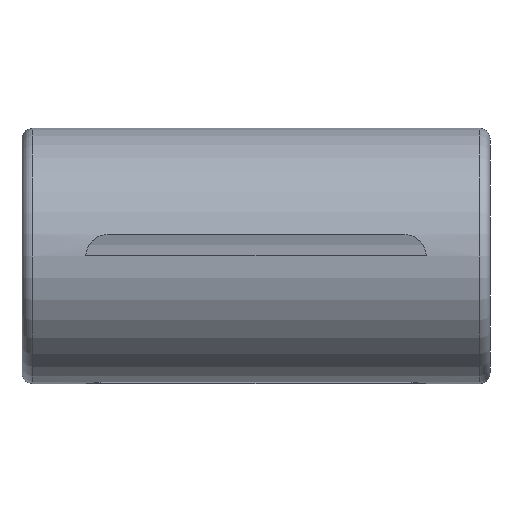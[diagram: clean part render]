
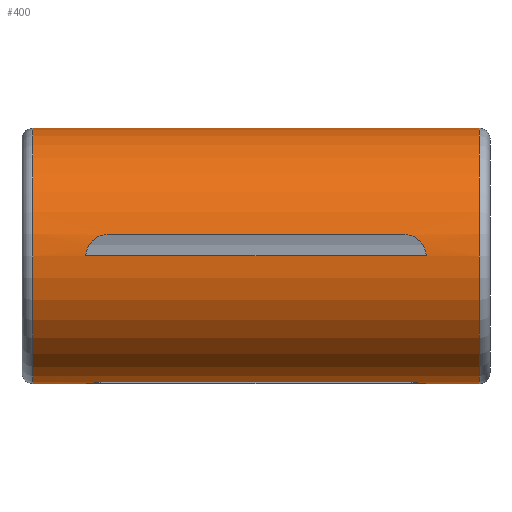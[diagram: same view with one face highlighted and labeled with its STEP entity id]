
A CAD part, front view. The second image highlights one B-rep face of the part: STEP entity #400.
In plain terms, the highlighted cylindrical face has radius 6 mm (diameter 12 mm), a full revolution.
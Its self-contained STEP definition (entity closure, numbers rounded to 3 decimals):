
#32=CIRCLE('',#436,6.);
#33=CIRCLE('',#437,6.);
#38=LINE('',#562,#70);
#39=LINE('',#570,#71);
#40=LINE('',#578,#72);
#41=LINE('',#586,#73);
#42=LINE('',#598,#74);
#43=LINE('',#606,#75);
#44=LINE('',#614,#76);
#45=LINE('',#622,#77);
#70=VECTOR('',#467,1000.);
#71=VECTOR('',#468,1000.);
#72=VECTOR('',#469,1000.);
#73=VECTOR('',#470,1000.);
#74=VECTOR('',#475,1000.);
#75=VECTOR('',#476,1000.);
#76=VECTOR('',#477,1000.);
#77=VECTOR('',#478,1000.);
#102=ORIENTED_EDGE('',*,*,#210,.T.);
#103=ORIENTED_EDGE('',*,*,#211,.T.);
#104=ORIENTED_EDGE('',*,*,#212,.T.);
#105=ORIENTED_EDGE('',*,*,#213,.T.);
#106=ORIENTED_EDGE('',*,*,#214,.T.);
#107=ORIENTED_EDGE('',*,*,#215,.T.);
#108=ORIENTED_EDGE('',*,*,#216,.T.);
#109=ORIENTED_EDGE('',*,*,#217,.T.);
#110=ORIENTED_EDGE('',*,*,#218,.T.);
#111=ORIENTED_EDGE('',*,*,#219,.T.);
#112=ORIENTED_EDGE('',*,*,#220,.T.);
#113=ORIENTED_EDGE('',*,*,#221,.T.);
#114=ORIENTED_EDGE('',*,*,#222,.T.);
#115=ORIENTED_EDGE('',*,*,#223,.T.);
#116=ORIENTED_EDGE('',*,*,#224,.T.);
#117=ORIENTED_EDGE('',*,*,#225,.T.);
#118=ORIENTED_EDGE('',*,*,#226,.T.);
#119=ORIENTED_EDGE('',*,*,#227,.T.);
#210=EDGE_CURVE('',#264,#265,#302,.T.);
#211=EDGE_CURVE('',#265,#266,#38,.F.);
#212=EDGE_CURVE('',#266,#267,#303,.T.);
#213=EDGE_CURVE('',#267,#264,#39,.T.);
#214=EDGE_CURVE('',#268,#269,#304,.T.);
#215=EDGE_CURVE('',#269,#270,#40,.F.);
#216=EDGE_CURVE('',#270,#271,#305,.T.);
#217=EDGE_CURVE('',#271,#268,#41,.T.);
#218=EDGE_CURVE('',#272,#272,#32,.F.);
#219=EDGE_CURVE('',#273,#273,#33,.T.);
#220=EDGE_CURVE('',#274,#275,#306,.T.);
#221=EDGE_CURVE('',#275,#276,#42,.F.);
#222=EDGE_CURVE('',#276,#277,#307,.T.);
#223=EDGE_CURVE('',#277,#274,#43,.T.);
#224=EDGE_CURVE('',#278,#279,#308,.T.);
#225=EDGE_CURVE('',#279,#280,#44,.F.);
#226=EDGE_CURVE('',#280,#281,#309,.T.);
#227=EDGE_CURVE('',#281,#278,#45,.T.);
#264=VERTEX_POINT('',#560);
#265=VERTEX_POINT('',#561);
#266=VERTEX_POINT('',#563);
#267=VERTEX_POINT('',#569);
#268=VERTEX_POINT('',#576);
#269=VERTEX_POINT('',#577);
#270=VERTEX_POINT('',#579);
#271=VERTEX_POINT('',#585);
#272=VERTEX_POINT('',#588);
#273=VERTEX_POINT('',#590);
#274=VERTEX_POINT('',#596);
#275=VERTEX_POINT('',#597);
#276=VERTEX_POINT('',#599);
#277=VERTEX_POINT('',#605);
#278=VERTEX_POINT('',#612);
#279=VERTEX_POINT('',#613);
#280=VERTEX_POINT('',#615);
#281=VERTEX_POINT('',#621);
#302=B_SPLINE_CURVE_WITH_KNOTS('',3,(#555,#556,#557,#558,#559),
 .UNSPECIFIED.,.F.,.F.,(4,1,4),(0.,0.001,
0.002),.UNSPECIFIED.);
#303=B_SPLINE_CURVE_WITH_KNOTS('',3,(#564,#565,#566,#567,#568),
 .UNSPECIFIED.,.F.,.F.,(4,1,4),(0.,0.001,0.002),
 .UNSPECIFIED.);
#304=B_SPLINE_CURVE_WITH_KNOTS('',3,(#571,#572,#573,#574,#575),
 .UNSPECIFIED.,.F.,.F.,(4,1,4),(0.,0.001,
0.002),.UNSPECIFIED.);
#305=B_SPLINE_CURVE_WITH_KNOTS('',3,(#580,#581,#582,#583,#584),
 .UNSPECIFIED.,.F.,.F.,(4,1,4),(0.,0.001,0.002),
 .UNSPECIFIED.);
#306=B_SPLINE_CURVE_WITH_KNOTS('',3,(#591,#592,#593,#594,#595),
 .UNSPECIFIED.,.F.,.F.,(4,1,4),(0.,0.001,
0.002),.UNSPECIFIED.);
#307=B_SPLINE_CURVE_WITH_KNOTS('',3,(#600,#601,#602,#603,#604),
 .UNSPECIFIED.,.F.,.F.,(4,1,4),(0.,0.001,0.002),
 .UNSPECIFIED.);
#308=B_SPLINE_CURVE_WITH_KNOTS('',3,(#607,#608,#609,#610,#611),
 .UNSPECIFIED.,.F.,.F.,(4,1,4),(0.,0.001,
0.002),.UNSPECIFIED.);
#309=B_SPLINE_CURVE_WITH_KNOTS('',3,(#616,#617,#618,#619,#620),
 .UNSPECIFIED.,.F.,.F.,(4,1,4),(0.,0.001,0.002),
 .UNSPECIFIED.);
#318=EDGE_LOOP('',(#102,#103,#104,#105));
#319=EDGE_LOOP('',(#106,#107,#108,#109));
#320=EDGE_LOOP('',(#110));
#321=EDGE_LOOP('',(#111));
#322=EDGE_LOOP('',(#112,#113,#114,#115));
#323=EDGE_LOOP('',(#116,#117,#118,#119));
#354=FACE_BOUND('',#318,.T.);
#355=FACE_BOUND('',#319,.T.);
#356=FACE_BOUND('',#320,.T.);
#357=FACE_BOUND('',#321,.T.);
#358=FACE_BOUND('',#322,.T.);
#359=FACE_BOUND('',#323,.T.);
#390=CYLINDRICAL_SURFACE('',#435,6.);
#400=ADVANCED_FACE('',(#354,#355,#356,#357,#358,#359),#390,.T.);
#435=AXIS2_PLACEMENT_3D('',#554,#465,#466);
#436=AXIS2_PLACEMENT_3D('',#587,#471,#472);
#437=AXIS2_PLACEMENT_3D('',#589,#473,#474);
#465=DIRECTION('',(-1.,0.,0.));
#466=DIRECTION('',(0.,0.,1.));
#467=DIRECTION('',(-1.,0.,0.));
#468=DIRECTION('',(-1.,0.,0.));
#469=DIRECTION('',(-1.,0.,0.));
#470=DIRECTION('',(-1.,0.,0.));
#471=DIRECTION('',(1.,0.,0.));
#472=DIRECTION('',(0.,0.,-1.));
#473=DIRECTION('',(1.,0.,0.));
#474=DIRECTION('',(0.,0.,-1.));
#475=DIRECTION('',(-1.,0.,0.));
#476=DIRECTION('',(-1.,0.,0.));
#477=DIRECTION('',(-1.,0.,0.));
#478=DIRECTION('',(-1.,0.,0.));
#554=CARTESIAN_POINT('',(11.,0.,0.));
#555=CARTESIAN_POINT('',(-8.,0.,-6.));
#556=CARTESIAN_POINT('',(-8.,-0.265,-6.));
#557=CARTESIAN_POINT('',(-7.782,-0.781,-5.958));
#558=CARTESIAN_POINT('',(-7.265,-1.,-5.916));
#559=CARTESIAN_POINT('',(-7.,-1.,-5.916));
#560=CARTESIAN_POINT('',(-8.,0.,-6.));
#561=CARTESIAN_POINT('',(-7.,-1.,-5.916));
#562=CARTESIAN_POINT('',(11.,-1.,-5.916));
#563=CARTESIAN_POINT('',(7.,-1.,-5.916));
#564=CARTESIAN_POINT('',(7.,-1.,-5.916));
#565=CARTESIAN_POINT('',(7.265,-1.,-5.916));
#566=CARTESIAN_POINT('',(7.781,-0.782,-5.958));
#567=CARTESIAN_POINT('',(8.,-0.265,-6.));
#568=CARTESIAN_POINT('',(8.,0.,-6.));
#569=CARTESIAN_POINT('',(8.,0.,-6.));
#570=CARTESIAN_POINT('',(11.,0.,-6.));
#571=CARTESIAN_POINT('',(-8.,0.,6.));
#572=CARTESIAN_POINT('',(-8.,0.265,6.));
#573=CARTESIAN_POINT('',(-7.782,0.781,5.958));
#574=CARTESIAN_POINT('',(-7.265,1.,5.916));
#575=CARTESIAN_POINT('',(-7.,1.,5.916));
#576=CARTESIAN_POINT('',(-8.,0.,6.));
#577=CARTESIAN_POINT('',(-7.,1.,5.916));
#578=CARTESIAN_POINT('',(11.,1.,5.916));
#579=CARTESIAN_POINT('',(7.,1.,5.916));
#580=CARTESIAN_POINT('',(7.,1.,5.916));
#581=CARTESIAN_POINT('',(7.265,1.,5.916));
#582=CARTESIAN_POINT('',(7.781,0.782,5.958));
#583=CARTESIAN_POINT('',(8.,0.265,6.));
#584=CARTESIAN_POINT('',(8.,0.,6.));
#585=CARTESIAN_POINT('',(8.,0.,6.));
#586=CARTESIAN_POINT('',(11.,0.,6.));
#587=CARTESIAN_POINT('',(10.5,0.,0.));
#588=CARTESIAN_POINT('',(10.5,0.,-6.));
#589=CARTESIAN_POINT('',(-10.5,0.,0.));
#590=CARTESIAN_POINT('',(-10.5,0.,-6.));
#591=CARTESIAN_POINT('',(-8.,6.,0.));
#592=CARTESIAN_POINT('',(-8.,6.,-0.265));
#593=CARTESIAN_POINT('',(-7.782,5.958,-0.781));
#594=CARTESIAN_POINT('',(-7.265,5.916,-1.));
#595=CARTESIAN_POINT('',(-7.,5.916,-1.));
#596=CARTESIAN_POINT('',(-8.,6.,0.));
#597=CARTESIAN_POINT('',(-7.,5.916,-1.));
#598=CARTESIAN_POINT('',(11.,5.916,-1.));
#599=CARTESIAN_POINT('',(7.,5.916,-1.));
#600=CARTESIAN_POINT('',(7.,5.916,-1.));
#601=CARTESIAN_POINT('',(7.265,5.916,-1.));
#602=CARTESIAN_POINT('',(7.781,5.958,-0.782));
#603=CARTESIAN_POINT('',(8.,6.,-0.265));
#604=CARTESIAN_POINT('',(8.,6.,0.));
#605=CARTESIAN_POINT('',(8.,6.,0.));
#606=CARTESIAN_POINT('',(11.,6.,0.));
#607=CARTESIAN_POINT('',(-8.,-6.,0.));
#608=CARTESIAN_POINT('',(-8.,-6.,0.265));
#609=CARTESIAN_POINT('',(-7.782,-5.958,0.781));
#610=CARTESIAN_POINT('',(-7.265,-5.916,1.));
#611=CARTESIAN_POINT('',(-7.,-5.916,1.));
#612=CARTESIAN_POINT('',(-8.,-6.,0.));
#613=CARTESIAN_POINT('',(-7.,-5.916,1.));
#614=CARTESIAN_POINT('',(11.,-5.916,1.));
#615=CARTESIAN_POINT('',(7.,-5.916,1.));
#616=CARTESIAN_POINT('',(7.,-5.916,1.));
#617=CARTESIAN_POINT('',(7.265,-5.916,1.));
#618=CARTESIAN_POINT('',(7.781,-5.958,0.782));
#619=CARTESIAN_POINT('',(8.,-6.,0.265));
#620=CARTESIAN_POINT('',(8.,-6.,0.));
#621=CARTESIAN_POINT('',(8.,-6.,0.));
#622=CARTESIAN_POINT('',(11.,-6.,0.));
